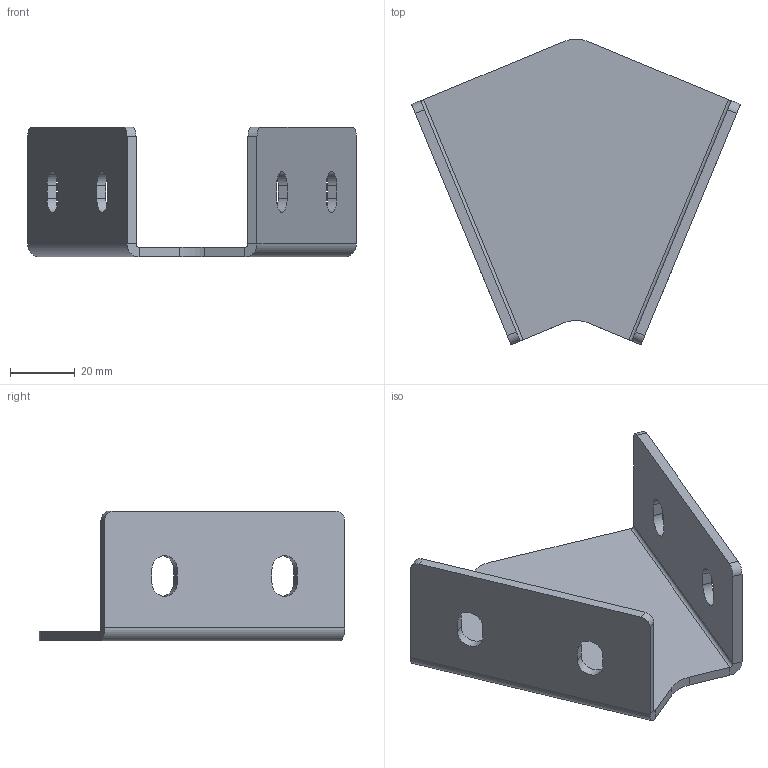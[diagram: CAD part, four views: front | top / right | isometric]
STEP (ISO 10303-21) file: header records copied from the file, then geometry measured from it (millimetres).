
FILE_DESCRIPTION (( 'STEP AP214' ), '1' );
FILE_NAME ('408045.STEP', '2018-02-22T08:25:00', ( '' ), ( '' ), 'SwSTEP 2.0', 'SolidWorks 2014', '' );
FILE_SCHEMA (( 'AUTOMOTIVE_DESIGN' ));
Length unit declared in the file: millimetre
Products named in the file (2): 408045
Bounding box: 101.23 x 94.02 x 40 mm (x, y, z)
Volume: 34476.7 mm3; surface area: 24752.6 mm2
Topology: 1 solids, 1 shells, 46 faces, 116 edges, 72 vertices
Faces by surface type: plane 28, cylinder 18
Entity records: 1433 total; most frequent: DIRECTION 248, CARTESIAN_POINT 236, ORIENTED_EDGE 232, EDGE_CURVE 116, AXIS2_PLACEMENT_3D 84, LINE 80, VECTOR 80, VERTEX_POINT 72
